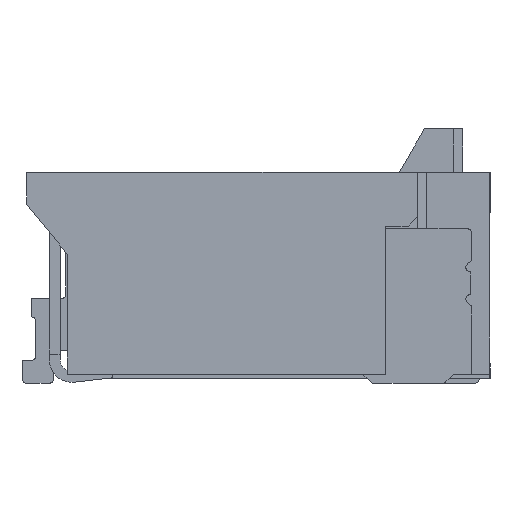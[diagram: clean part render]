
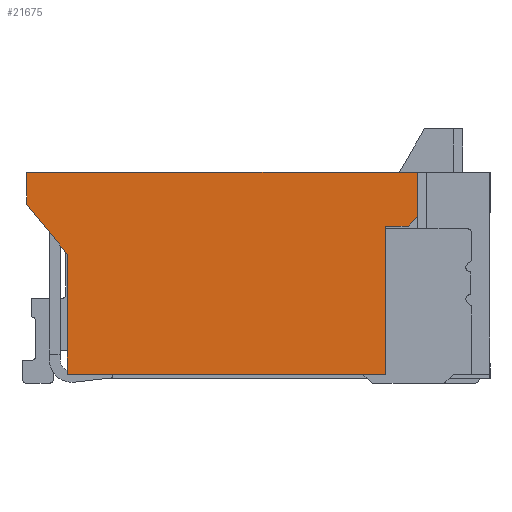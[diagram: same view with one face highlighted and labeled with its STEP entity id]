
A CAD part, front view. The second image highlights one B-rep face of the part: STEP entity #21675.
In plain terms, the highlighted planar face has unit normal (0, -1, 0).
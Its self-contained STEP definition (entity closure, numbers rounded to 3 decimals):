
#43 = CARTESIAN_POINT ( 'NONE',  ( 1.604, -6.296, 2.424 ) ) ;
#1537 = CARTESIAN_POINT ( 'NONE',  ( 5.104, -6.296, 2.374 ) ) ;
#1586 = EDGE_CURVE ( 'NONE', #14419, #6920, #16007, .T. ) ;
#1660 = DIRECTION ( 'NONE',  ( 0., 0., -1. ) ) ;
#2492 = CARTESIAN_POINT ( 'NONE',  ( 5.454, -6.296, 4.154 ) ) ;
#2536 = CARTESIAN_POINT ( 'NONE',  ( 1.604, -6.296, 4.644 ) ) ;
#3112 = CARTESIAN_POINT ( 'NONE',  ( 1.604, -6.296, 2.374 ) ) ;
#3976 = CARTESIAN_POINT ( 'NONE',  ( 1.604, -6.296, 2.374 ) ) ;
#4246 = DIRECTION ( 'NONE',  ( 0., 0., -1. ) ) ;
#4391 = CARTESIAN_POINT ( 'NONE',  ( 5.454, -6.296, 2.374 ) ) ;
#4942 = EDGE_CURVE ( 'NONE', #21178, #14553, #22414, .T. ) ;
#5346 = ORIENTED_EDGE ( 'NONE', *, *, #10756, .F. ) ;
#5786 = ORIENTED_EDGE ( 'NONE', *, *, #4942, .T. ) ;
#5828 = LINE ( 'NONE', #11895, #25586 ) ;
#6920 = VERTEX_POINT ( 'NONE', #24025 ) ;
#7511 = VERTEX_POINT ( 'NONE', #12936 ) ;
#7949 = DIRECTION ( 'NONE',  ( -1., 0., 0. ) ) ;
#8243 = ORIENTED_EDGE ( 'NONE', *, *, #12201, .F. ) ;
#8363 = CARTESIAN_POINT ( 'NONE',  ( 1.154, -6.296, 4.294 ) ) ;
#8476 = CARTESIAN_POINT ( 'NONE',  ( 2.639, -6.296, 1.339 ) ) ;
#8699 = EDGE_CURVE ( 'NONE', #7511, #21178, #14921, .T. ) ;
#9327 = LINE ( 'NONE', #3112, #15166 ) ;
#9606 = LINE ( 'NONE', #1537, #12207 ) ;
#10239 = DIRECTION ( 'NONE',  ( 1., 0., 0. ) ) ;
#10252 = CARTESIAN_POINT ( 'NONE',  ( 1.604, -6.296, 3.744 ) ) ;
#10476 = ORIENTED_EDGE ( 'NONE', *, *, #16455, .T. ) ;
#10557 = VECTOR ( 'NONE', #17476, 1000. ) ;
#10756 = EDGE_CURVE ( 'NONE', #7511, #14084, #5828, .T. ) ;
#10847 = VECTOR ( 'NONE', #15052, 1000. ) ;
#10952 = CARTESIAN_POINT ( 'NONE',  ( 5.104, -6.296, 4.054 ) ) ;
#11304 = DIRECTION ( 'NONE',  ( 0., 0., -1. ) ) ;
#11895 = CARTESIAN_POINT ( 'NONE',  ( 5.454, -6.296, 4.054 ) ) ;
#12201 = EDGE_CURVE ( 'NONE', #14084, #6920, #9606, .T. ) ;
#12207 = VECTOR ( 'NONE', #1660, 1000. ) ;
#12844 = ORIENTED_EDGE ( 'NONE', *, *, #22228, .T. ) ;
#12936 = CARTESIAN_POINT ( 'NONE',  ( 5.354, -6.296, 4.054 ) ) ;
#14084 = VERTEX_POINT ( 'NONE', #10952 ) ;
#14152 = PLANE ( 'NONE',  #20304 ) ;
#14169 = ORIENTED_EDGE ( 'NONE', *, *, #20276, .T. ) ;
#14295 = CARTESIAN_POINT ( 'NONE',  ( 1.154, -6.296, 4.644 ) ) ;
#14372 = CARTESIAN_POINT ( 'NONE',  ( 1.604, -6.296, 2.424 ) ) ;
#14419 = VERTEX_POINT ( 'NONE', #14372 ) ;
#14553 = VERTEX_POINT ( 'NONE', #14627 ) ;
#14627 = CARTESIAN_POINT ( 'NONE',  ( 5.454, -6.296, 4.644 ) ) ;
#14921 = LINE ( 'NONE', #8476, #10847 ) ;
#15052 = DIRECTION ( 'NONE',  ( 0.707, 0., 0.707 ) ) ;
#15166 = VECTOR ( 'NONE', #11304, 1000. ) ;
#15212 = ORIENTED_EDGE ( 'NONE', *, *, #20261, .T. ) ;
#15486 = LINE ( 'NONE', #25746, #16167 ) ;
#16007 = LINE ( 'NONE', #43, #17018 ) ;
#16167 = VECTOR ( 'NONE', #19154, 1000. ) ;
#16258 = ORIENTED_EDGE ( 'NONE', *, *, #1586, .T. ) ;
#16455 = EDGE_CURVE ( 'NONE', #23974, #17269, #15486, .T. ) ;
#17018 = VECTOR ( 'NONE', #10239, 1000. ) ;
#17087 = CARTESIAN_POINT ( 'NONE',  ( 1.154, -6.296, 2.374 ) ) ;
#17269 = VERTEX_POINT ( 'NONE', #10252 ) ;
#17476 = DIRECTION ( 'NONE',  ( 0., 0., -1. ) ) ;
#17634 = VECTOR ( 'NONE', #24535, 1000. ) ;
#18193 = FACE_OUTER_BOUND ( 'NONE', #21630, .T. ) ;
#18473 = DIRECTION ( 'NONE',  ( -1., 0., 0. ) ) ;
#19154 = DIRECTION ( 'NONE',  ( 0.633, 0., -0.774 ) ) ;
#19868 = VECTOR ( 'NONE', #18473, 1000. ) ;
#20261 = EDGE_CURVE ( 'NONE', #17269, #14419, #9327, .T. ) ;
#20276 = EDGE_CURVE ( 'NONE', #22150, #23974, #21541, .T. ) ;
#20304 = AXIS2_PLACEMENT_3D ( 'NONE', #3976, #24131, #4246 ) ;
#20585 = LINE ( 'NONE', #2536, #19868 ) ;
#21178 = VERTEX_POINT ( 'NONE', #2492 ) ;
#21541 = LINE ( 'NONE', #17087, #10557 ) ;
#21630 = EDGE_LOOP ( 'NONE', ( #5346, #23976, #5786, #12844, #14169, #10476, #15212, #16258, #8243 ) ) ;
#21675 = ADVANCED_FACE ( 'NONE', ( #18193 ), #14152, .T. ) ;
#22150 = VERTEX_POINT ( 'NONE', #14295 ) ;
#22228 = EDGE_CURVE ( 'NONE', #14553, #22150, #20585, .T. ) ;
#22414 = LINE ( 'NONE', #4391, #17634 ) ;
#23974 = VERTEX_POINT ( 'NONE', #8363 ) ;
#23976 = ORIENTED_EDGE ( 'NONE', *, *, #8699, .T. ) ;
#24025 = CARTESIAN_POINT ( 'NONE',  ( 5.104, -6.296, 2.424 ) ) ;
#24131 = DIRECTION ( 'NONE',  ( 0., -1., 0. ) ) ;
#24535 = DIRECTION ( 'NONE',  ( 0., 0., 1. ) ) ;
#25586 = VECTOR ( 'NONE', #7949, 1000. ) ;
#25746 = CARTESIAN_POINT ( 'NONE',  ( 1.154, -6.296, 4.294 ) ) ;
